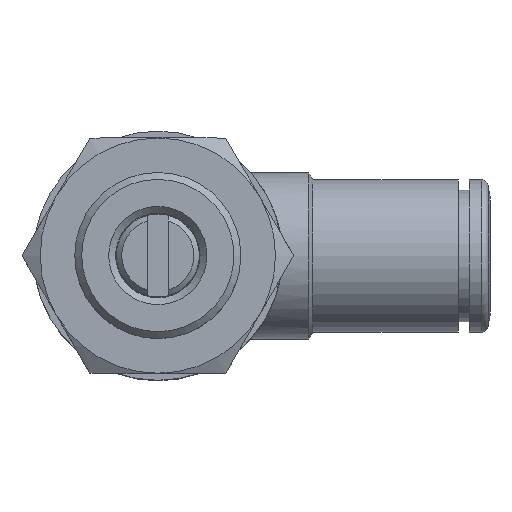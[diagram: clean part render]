
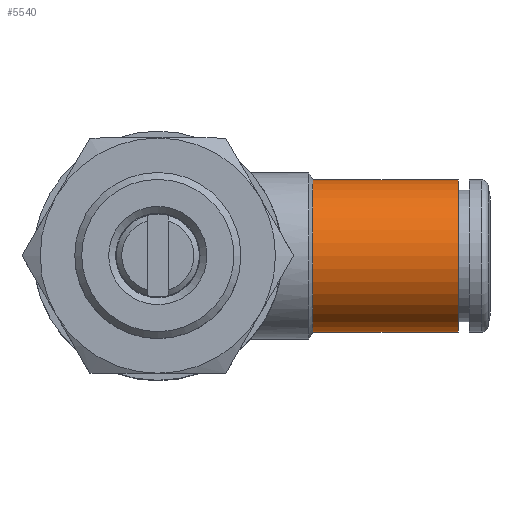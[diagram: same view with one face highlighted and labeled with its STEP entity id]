
A CAD part, top view. The second image highlights one B-rep face of the part: STEP entity #5540.
In plain terms, the highlighted cylindrical face has radius 5.5 mm (diameter 11 mm), a full revolution.
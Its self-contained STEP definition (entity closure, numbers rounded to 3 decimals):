
#5540=ADVANCED_FACE('', (#5550,#5560), #5570, .T.);
#16350=AXIS2_PLACEMENT_3D('Ax2Pl3d', #16360, #16370, #16380);
#17310=AXIS2_PLACEMENT_3D('Ax2Pl3d', #17320, #17330, #17340);
#17350=AXIS2_PLACEMENT_3D('Ax2Pl3d', #17360, #17370, #17380);
#16360=CARTESIAN_POINT('HicPkt', (44.873,22.353,
26.338));
#33460=CARTESIAN_POINT('', (44.873,22.353,20.838));
#17320=CARTESIAN_POINT('HicPkt', (34.373,22.353,
26.338));
#33580=CARTESIAN_POINT('', (34.373,22.353,20.838));
#17360=CARTESIAN_POINT('HicPkt', (34.373,22.353,
26.338));
#34830=CIRCLE('Circle', #16350, 5.5);
#34940=CIRCLE('Circle', #17310, 5.5);
#5570=CYLINDRICAL_SURFACE('Zyl', #17350, 5.5);
#16370=DIRECTION('Axis', (1.,0.,0.));
#16380=DIRECTION('RefDirection', (0.,0.,-1.));
#17330=DIRECTION('Axis', (1.,0.,0.));
#17340=DIRECTION('RefDirection', (0.,0.,-1.));
#17370=DIRECTION('Axis', (1.,0.,0.));
#17380=DIRECTION('RefDirection', (0.,0.,-1.));
#44830=EDGE_CURVE('', #44840, #44840, #34830, .T.);
#45080=EDGE_CURVE('', #45090, #45090, #34940, .T.);
#51340=EDGE_LOOP('Edge_loop', (#51350));
#51360=EDGE_LOOP('Edge_loop', (#51370));
#5560=FACE_BOUND('', #51360, .T.);
#5550=FACE_OUTER_BOUND('Face_outer_bound', #51340, .T.);
#51350=ORIENTED_EDGE('', *, *, #44830, .F.);
#51370=ORIENTED_EDGE('', *, *, #45080, .T.);
#44840=VERTEX_POINT('', #33460);
#45090=VERTEX_POINT('', #33580);
